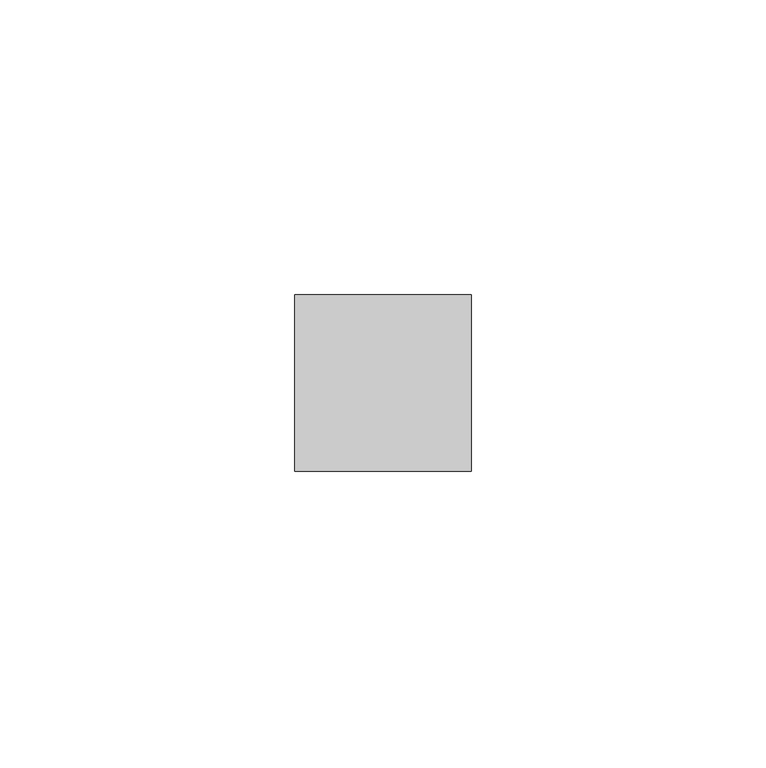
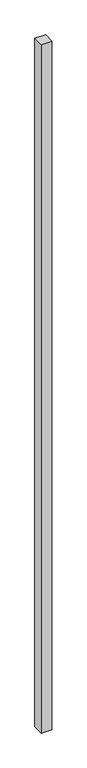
"""IFC4 building model written with IfcOpenShell, lengths in millimetres: member geometry, 矩形竖梃 : 30mm 正方形."""

import ifcopenshell
import ifcopenshell.guid

model = None  # the IFC model being written
_history = None  # IfcOwnerHistory: only IFC2X3 demands one
_inside = {}  # id of a spatial element -> (the spatial element, [elements in it])
_under = {}  # id of a project, library or spatial element -> (it, [spatial elements below it])
_declared = {}  # id of a project -> (the project, [libraries it declares])
_typed = {}  # id of a type object -> (the type object, [elements of that type])
_made_of = {}  # id of a material, layer set ... -> (it, [elements and type objects made of it])


def new_model(schema):
    """Start an empty IFC model of exactly this schema.

    Asked for "IFC4X3", IfcOpenShell would pick the latest addendum, in which some entities
    have other attributes; the version numbers below select the first issue.
    IFC2X3 requires an IfcOwnerHistory on every rooted entity: one is made here for all.
    """
    global model, _history
    if schema == "IFC4X3":
        model = ifcopenshell.file(schema_version=(4, 3, 0, 0))
    else:
        model = ifcopenshell.file(schema=schema)
    _inside.clear()
    _under.clear()
    _declared.clear()
    _typed.clear()
    _made_of.clear()
    _history = None
    if model.schema == "IFC2X3":
        org = make("IfcOrganization", Name="unknown")
        user = make(
            "IfcPersonAndOrganization",
            ThePerson=make("IfcPerson", FamilyName="unknown"),
            TheOrganization=org,
        )
        app = make(
            "IfcApplication",
            ApplicationDeveloper=org,
            Version="unknown",
            ApplicationFullName="unknown",
            ApplicationIdentifier="unknown",
        )
        _history = make(
            "IfcOwnerHistory",
            OwningUser=user,
            OwningApplication=app,
            ChangeAction="ADDED",
            CreationDate=0,
        )
    return model


def make(cls, **values):
    """One entity of the class cls with the attributes given. An attribute that is None is left unset."""
    return model.create_entity(
        cls, **{name: value for name, value in values.items() if value is not None}
    )


def rooted(cls, **values):
    """An entity with a GlobalId (a new one), such as an element, a storey or a relation."""
    return make(cls, GlobalId=ifcopenshell.guid.new(), OwnerHistory=_history, **values)


def si_unit(unit_type, name, prefix=None):
    """IfcSIUnit, for example si_unit("LENGTHUNIT", "METRE", prefix="MILLI")."""
    return make("IfcSIUnit", UnitType=unit_type, Prefix=prefix, Name=name)


def assignment(units):
    """IfcUnitAssignment: the units of a project."""
    return None if units is None else make("IfcUnitAssignment", Units=units)


def point(xyz):
    """IfcCartesianPoint."""
    return None if xyz is None else make("IfcCartesianPoint", Coordinates=xyz)


def direction(xyz):
    """IfcDirection."""
    return None if xyz is None else make("IfcDirection", DirectionRatios=xyz)


def frame(location, z_axis=None, x_axis=None):
    """IfcAxis2Placement3D, a coordinate frame: its origin and axes. An axis left out is left unset."""
    return make(
        "IfcAxis2Placement3D",
        Location=point(location),
        Axis=direction(z_axis),
        RefDirection=direction(x_axis),
    )


def origin():
    """The frame at (0, 0, 0) with its axes left unset."""
    return frame((0.0, 0.0, 0.0))


def place(relative_to, where):
    """IfcLocalPlacement: puts the frame where relative to a parent placement (None: the world)."""
    return make(
        "IfcLocalPlacement", PlacementRelTo=relative_to, RelativePlacement=where
    )


def context(
    kind, dimensions, precision=None, world=None, true_north=None, identifier=None
):
    """IfcGeometricRepresentationContext, for example the 3D "Model" context."""
    return make(
        "IfcGeometricRepresentationContext",
        ContextIdentifier=identifier,
        ContextType=kind,
        CoordinateSpaceDimension=dimensions,
        Precision=precision,
        WorldCoordinateSystem=world,
        TrueNorth=true_north,
    )


def project(units=None, contexts=None):
    """IfcProject with its units and contexts."""
    return rooted(
        "IfcProject",
        Name="project",
        RepresentationContexts=contexts,
        UnitsInContext=assignment(units),
    )


def spatial(cls, under=None, at=None, **own):
    """A site, building, storey or space (cls), placed at a placement, below another one or the project."""
    s = rooted(cls, ObjectPlacement=at, **own)
    if under is not None:
        _under.setdefault(under.id(), (under, []))[1].append(s)
    return s


def polyline(points):
    """IfcPolyline through the points."""
    return make("IfcPolyline", Points=[point(p) for p in points])


def outline(outer, holes=None, kind="AREA"):
    """IfcArbitraryClosedProfileDef: a profile drawn as a closed curve; with holes, ...WithVoids."""
    if holes is None:
        return make("IfcArbitraryClosedProfileDef", ProfileType=kind, OuterCurve=outer)
    return make(
        "IfcArbitraryProfileDefWithVoids",
        ProfileType=kind,
        OuterCurve=outer,
        InnerCurves=holes,
    )


def extrude(swept, where, along, depth):
    """IfcExtrudedAreaSolid: the profile swept, set in the frame where, extruded along a direction by depth."""
    return make(
        "IfcExtrudedAreaSolid",
        SweptArea=swept,
        Position=where,
        ExtrudedDirection=direction(along),
        Depth=depth,
    )


def shape(context_of_items, identifier, shape_type, items):
    """IfcShapeRepresentation: the items that make up one representation, for example the "Body"."""
    return make(
        "IfcShapeRepresentation",
        ContextOfItems=context_of_items,
        RepresentationIdentifier=identifier,
        RepresentationType=shape_type,
        Items=items,
    )


def source(mapping_origin, context_of_items, identifier, shape_type, items):
    """IfcRepresentationMap: a shape defined once, which mapped items show again and again."""
    return make(
        "IfcRepresentationMap",
        MappingOrigin=mapping_origin,
        MappedRepresentation=shape(context_of_items, identifier, shape_type, items),
    )


def transform(
    local_origin,
    x_axis=None,
    y_axis=None,
    z_axis=None,
    scale=None,
    scale2=None,
    scale3=None,
    uniform=True,
):
    """IfcCartesianTransformationOperator3D, or its non-uniform kind. x_axis, y_axis, z_axis: its Axis1, 2, 3."""
    if uniform:
        return make(
            "IfcCartesianTransformationOperator3D",
            Axis1=direction(x_axis),
            Axis2=direction(y_axis),
            LocalOrigin=point(local_origin),
            Scale=scale,
            Axis3=direction(z_axis),
        )
    return make(
        "IfcCartesianTransformationOperator3DnonUniform",
        Axis1=direction(x_axis),
        Axis2=direction(y_axis),
        LocalOrigin=point(local_origin),
        Scale=scale,
        Axis3=direction(z_axis),
        Scale2=scale2,
        Scale3=scale3,
    )


def mapped(mapping_source, mapping_target):
    """IfcMappedItem: shows the shape of a source again, moved by a transform."""
    return make(
        "IfcMappedItem", MappingSource=mapping_source, MappingTarget=mapping_target
    )


def made_of(thing, what):
    """Note that an element or type object is made of a material, layer set ...; save() writes the relation."""
    if what is not None:
        _made_of.setdefault(what.id(), (what, []))[1].append(thing)
    return thing


def element(
    cls,
    number,
    at=None,
    inside=None,
    cuts=None,
    type_object=None,
    material=None,
    context=None,
    identifier="Body",
    shape_type=None,
    held_by="IfcProductDefinitionShape",
    body=None,
    shapes=None,
    **own,
):
    """One element of the class cls, such as IfcWall. Its Tag is "e" and its number.

    at: its placement. inside: the storey or other place that contains it. cuts: it is an
    opening in that element (IfcRelVoidsElement). A single representation is given by context,
    identifier, shape_type and body (its items); several are given by shapes. held_by: the class
    of the entity that holds the representations. save() writes the other relations.
    """
    e = rooted(cls, Tag="e%d" % number, ObjectPlacement=at, **own)
    if body is not None:
        shapes = [shape(context, identifier, shape_type, body)]
    if shapes is not None:
        e.Representation = make(held_by, Representations=shapes)
    if inside is not None:
        _inside.setdefault(inside.id(), (inside, []))[1].append(e)
    if cuts is not None:
        rooted(
            "IfcRelVoidsElement", RelatingBuildingElement=cuts, RelatedOpeningElement=e
        )
    if type_object is not None:
        _typed.setdefault(type_object.id(), (type_object, []))[1].append(e)
    return made_of(e, material)


def aggregate(whole, parts):
    """IfcRelAggregates: a whole, such as a stair, and the parts it consists of."""
    return rooted("IfcRelAggregates", RelatingObject=whole, RelatedObjects=parts)


def save(model, path):
    """Write the relations noted so far, then the file.

    IfcRelAggregates (storeys below a building ...), IfcRelContainedInSpatialStructure (elements
    in a storey), IfcRelDefinesByType, IfcRelAssociatesMaterial and IfcRelDeclares: one each for
    every whole, place, type object, material and project.
    """
    for whole, parts in _under.values():
        aggregate(whole, parts)
    for where, things in _inside.values():
        rooted(
            "IfcRelContainedInSpatialStructure",
            RelatedElements=things,
            RelatingStructure=where,
        )
    for kind, things in _typed.values():
        rooted("IfcRelDefinesByType", RelatedObjects=things, RelatingType=kind)
    for what, things in _made_of.values():
        rooted("IfcRelAssociatesMaterial", RelatedObjects=things, RelatingMaterial=what)
    for by, libraries in _declared.values():
        rooted("IfcRelDeclares", RelatingContext=by, RelatedDefinitions=libraries)
    model.write(path)


def member_36abf0b9(model_context):
    return source(origin(), model_context, "Body", "SweptSolid", [
        extrude(outline(polyline([(15.0, 15.0), (15.0, -15.0), (-15.0, -15.0), (-15.0, 15.0), (15.0, 15.0)])), frame((0.0, 0.0, -2040.0), z_axis=(0.0, 0.0, 1.0), x_axis=(1.0, 0.0, 0.0)), (0.0, 0.0, 1.0), 2040.0),
    ])


if __name__ == "__main__":
    model = new_model("IFC4")
    model_context = context("Model", 3, world=origin())
    ifc_project = project(units=[si_unit("LENGTHUNIT", "METRE", prefix="MILLI")], contexts=[model_context])
    site = spatial("IfcSite", under=ifc_project)
    building = spatial("IfcBuilding", under=site)
    placement = place(None, origin())
    member_shape = member_36abf0b9(model_context)
    element("IfcMember", 1, ObjectType="矩形竖梃 : 30mm 正方形", at=placement, inside=building, context=model_context, shape_type="MappedRepresentation", body=[
        mapped(member_shape, transform((0.0, 0.0, 0.0), x_axis=(1.0, 0.0, 0.0), y_axis=(0.0, 1.0, 0.0), z_axis=(0.0, 0.0, 1.0))),
    ])
    save(model, "model.ifc")
